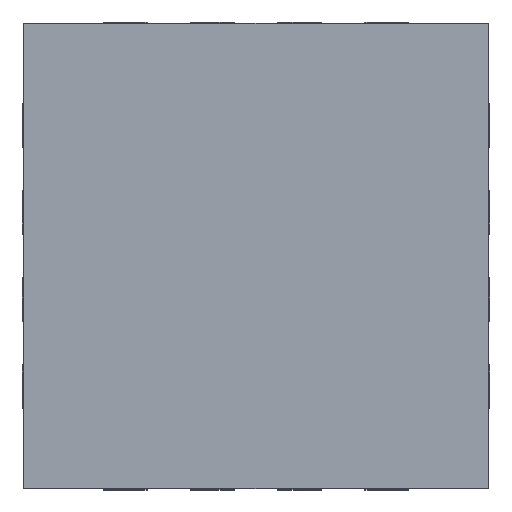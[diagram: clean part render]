
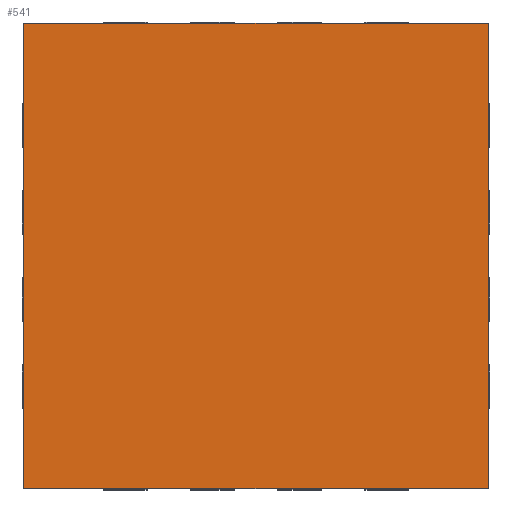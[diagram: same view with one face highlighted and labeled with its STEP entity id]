
A CAD part, top view. The second image highlights one B-rep face of the part: STEP entity #541.
In plain terms, the highlighted planar face has unit normal (0, 0, 1).
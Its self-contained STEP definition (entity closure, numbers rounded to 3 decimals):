
#21 = EDGE_CURVE('',#22,#24,#26,.T.);
#22 = VERTEX_POINT('',#23);
#23 = CARTESIAN_POINT('',(0.,0.,1.05));
#24 = VERTEX_POINT('',#25);
#25 = CARTESIAN_POINT('',(0.,3.2,1.05));
#26 = SURFACE_CURVE('',#27,(#31,#43),.PCURVE_S1.);
#27 = LINE('',#28,#29);
#28 = CARTESIAN_POINT('',(0.,0.,1.05));
#29 = VECTOR('',#30,1.);
#30 = DIRECTION('',(0.,1.,0.));
#31 = PCURVE('',#32,#37);
#32 = PLANE('',#33);
#33 = AXIS2_PLACEMENT_3D('',#34,#35,#36);
#34 = CARTESIAN_POINT('',(0.,0.,0.05));
#35 = DIRECTION('',(1.,0.,0.));
#36 = DIRECTION('',(0.,0.,1.));
#37 = DEFINITIONAL_REPRESENTATION('',(#38),#42);
#38 = LINE('',#39,#40);
#39 = CARTESIAN_POINT('',(1.,0.));
#40 = VECTOR('',#41,1.);
#41 = DIRECTION('',(0.,-1.));
#42 = ( GEOMETRIC_REPRESENTATION_CONTEXT(2) 
PARAMETRIC_REPRESENTATION_CONTEXT() REPRESENTATION_CONTEXT('2D SPACE',''
  ) );
#43 = PCURVE('',#44,#49);
#44 = PLANE('',#45);
#45 = AXIS2_PLACEMENT_3D('',#46,#47,#48);
#46 = CARTESIAN_POINT('',(0.,0.,1.05));
#47 = DIRECTION('',(0.,0.,1.));
#48 = DIRECTION('',(1.,0.,0.));
#49 = DEFINITIONAL_REPRESENTATION('',(#50),#54);
#50 = LINE('',#51,#52);
#51 = CARTESIAN_POINT('',(0.,0.));
#52 = VECTOR('',#53,1.);
#53 = DIRECTION('',(0.,1.));
#54 = ( GEOMETRIC_REPRESENTATION_CONTEXT(2) 
PARAMETRIC_REPRESENTATION_CONTEXT() REPRESENTATION_CONTEXT('2D SPACE',''
  ) );
#72 = PLANE('',#73);
#73 = AXIS2_PLACEMENT_3D('',#74,#75,#76);
#74 = CARTESIAN_POINT('',(0.,0.,0.05));
#75 = DIRECTION('',(0.,1.,0.));
#76 = DIRECTION('',(0.,0.,1.));
#530 = PLANE('',#531);
#531 = AXIS2_PLACEMENT_3D('',#532,#533,#534);
#532 = CARTESIAN_POINT('',(0.,3.2,0.05));
#533 = DIRECTION('',(0.,1.,0.));
#534 = DIRECTION('',(0.,0.,1.));
#541 = ADVANCED_FACE('',(#542),#44,.T.);
#542 = FACE_BOUND('',#543,.T.);
#543 = EDGE_LOOP('',(#544,#545,#568,#596));
#544 = ORIENTED_EDGE('',*,*,#21,.F.);
#545 = ORIENTED_EDGE('',*,*,#546,.T.);
#546 = EDGE_CURVE('',#22,#547,#549,.T.);
#547 = VERTEX_POINT('',#548);
#548 = CARTESIAN_POINT('',(3.2,0.,1.05));
#549 = SURFACE_CURVE('',#550,(#554,#561),.PCURVE_S1.);
#550 = LINE('',#551,#552);
#551 = CARTESIAN_POINT('',(0.,0.,1.05));
#552 = VECTOR('',#553,1.);
#553 = DIRECTION('',(1.,0.,0.));
#554 = PCURVE('',#44,#555);
#555 = DEFINITIONAL_REPRESENTATION('',(#556),#560);
#556 = LINE('',#557,#558);
#557 = CARTESIAN_POINT('',(0.,0.));
#558 = VECTOR('',#559,1.);
#559 = DIRECTION('',(1.,0.));
#560 = ( GEOMETRIC_REPRESENTATION_CONTEXT(2) 
PARAMETRIC_REPRESENTATION_CONTEXT() REPRESENTATION_CONTEXT('2D SPACE',''
  ) );
#561 = PCURVE('',#72,#562);
#562 = DEFINITIONAL_REPRESENTATION('',(#563),#567);
#563 = LINE('',#564,#565);
#564 = CARTESIAN_POINT('',(1.,0.));
#565 = VECTOR('',#566,1.);
#566 = DIRECTION('',(0.,1.));
#567 = ( GEOMETRIC_REPRESENTATION_CONTEXT(2) 
PARAMETRIC_REPRESENTATION_CONTEXT() REPRESENTATION_CONTEXT('2D SPACE',''
  ) );
#568 = ORIENTED_EDGE('',*,*,#569,.T.);
#569 = EDGE_CURVE('',#547,#570,#572,.T.);
#570 = VERTEX_POINT('',#571);
#571 = CARTESIAN_POINT('',(3.2,3.2,1.05));
#572 = SURFACE_CURVE('',#573,(#577,#584),.PCURVE_S1.);
#573 = LINE('',#574,#575);
#574 = CARTESIAN_POINT('',(3.2,0.,1.05));
#575 = VECTOR('',#576,1.);
#576 = DIRECTION('',(0.,1.,0.));
#577 = PCURVE('',#44,#578);
#578 = DEFINITIONAL_REPRESENTATION('',(#579),#583);
#579 = LINE('',#580,#581);
#580 = CARTESIAN_POINT('',(3.2,0.));
#581 = VECTOR('',#582,1.);
#582 = DIRECTION('',(0.,1.));
#583 = ( GEOMETRIC_REPRESENTATION_CONTEXT(2) 
PARAMETRIC_REPRESENTATION_CONTEXT() REPRESENTATION_CONTEXT('2D SPACE',''
  ) );
#584 = PCURVE('',#585,#590);
#585 = PLANE('',#586);
#586 = AXIS2_PLACEMENT_3D('',#587,#588,#589);
#587 = CARTESIAN_POINT('',(3.2,0.,0.05));
#588 = DIRECTION('',(1.,0.,0.));
#589 = DIRECTION('',(0.,0.,1.));
#590 = DEFINITIONAL_REPRESENTATION('',(#591),#595);
#591 = LINE('',#592,#593);
#592 = CARTESIAN_POINT('',(1.,0.));
#593 = VECTOR('',#594,1.);
#594 = DIRECTION('',(0.,-1.));
#595 = ( GEOMETRIC_REPRESENTATION_CONTEXT(2) 
PARAMETRIC_REPRESENTATION_CONTEXT() REPRESENTATION_CONTEXT('2D SPACE',''
  ) );
#596 = ORIENTED_EDGE('',*,*,#597,.F.);
#597 = EDGE_CURVE('',#24,#570,#598,.T.);
#598 = SURFACE_CURVE('',#599,(#603,#610),.PCURVE_S1.);
#599 = LINE('',#600,#601);
#600 = CARTESIAN_POINT('',(0.,3.2,1.05));
#601 = VECTOR('',#602,1.);
#602 = DIRECTION('',(1.,0.,0.));
#603 = PCURVE('',#44,#604);
#604 = DEFINITIONAL_REPRESENTATION('',(#605),#609);
#605 = LINE('',#606,#607);
#606 = CARTESIAN_POINT('',(0.,3.2));
#607 = VECTOR('',#608,1.);
#608 = DIRECTION('',(1.,0.));
#609 = ( GEOMETRIC_REPRESENTATION_CONTEXT(2) 
PARAMETRIC_REPRESENTATION_CONTEXT() REPRESENTATION_CONTEXT('2D SPACE',''
  ) );
#610 = PCURVE('',#530,#611);
#611 = DEFINITIONAL_REPRESENTATION('',(#612),#616);
#612 = LINE('',#613,#614);
#613 = CARTESIAN_POINT('',(1.,0.));
#614 = VECTOR('',#615,1.);
#615 = DIRECTION('',(0.,1.));
#616 = ( GEOMETRIC_REPRESENTATION_CONTEXT(2) 
PARAMETRIC_REPRESENTATION_CONTEXT() REPRESENTATION_CONTEXT('2D SPACE',''
  ) );
